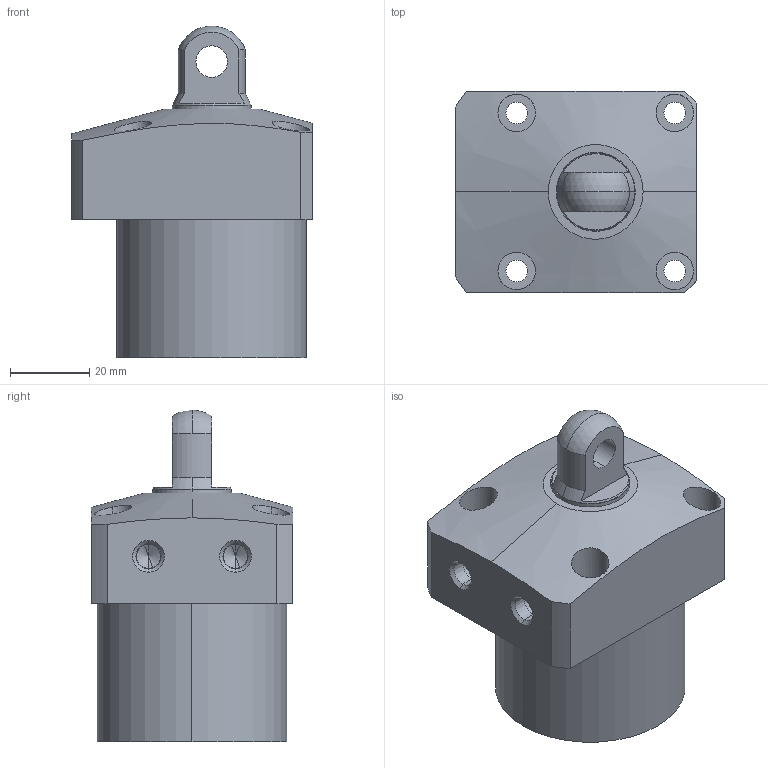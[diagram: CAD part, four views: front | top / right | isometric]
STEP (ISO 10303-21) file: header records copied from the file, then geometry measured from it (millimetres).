
FILE_DESCRIPTION (( 'STEP AP203' ), '1' );
FILE_NAME ('CLL-0480-CP-025.STEP', '2017-05-09T02:41:06', ( '' ), ( '' ), 'SwSTEP 2.0', 'SolidWorks 2015', '' );
FILE_SCHEMA (( 'CONFIG_CONTROL_DESIGN' ));
Length unit declared in the file: millimetre
Products named in the file (1): CLL-0480-CP-025
Bounding box: 61 x 51 x 84 mm (x, y, z)
Volume: 139407.6 mm3; surface area: 19862.5 mm2
Topology: 1 solids, 1 shells, 75 faces, 177 edges, 113 vertices
Faces by surface type: cylinder 35, plane 22, cone 16, sphere 2
Entity records: 2568 total; most frequent: CARTESIAN_POINT 716, DIRECTION 391, ORIENTED_EDGE 346, EDGE_CURVE 173, AXIS2_PLACEMENT_3D 162, VERTEX_POINT 113, EDGE_LOOP 98, CIRCLE 86
